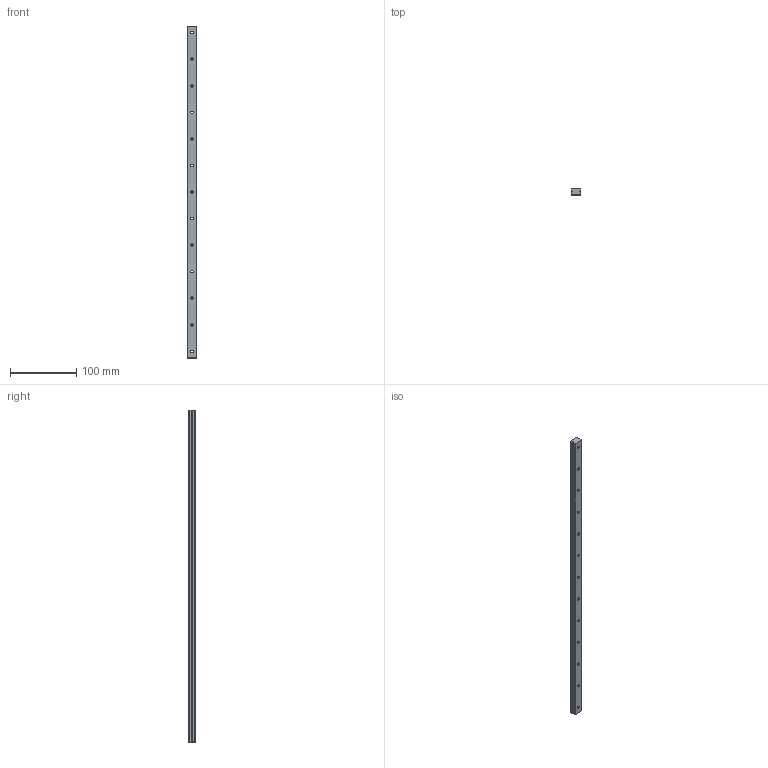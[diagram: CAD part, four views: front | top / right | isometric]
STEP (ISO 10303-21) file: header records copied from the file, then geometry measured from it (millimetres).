
FILE_DESCRIPTION(/* description */ (''),/* implementation_level */ '2;1');
FILE_NAME(/* name */ 'C:\Users\daviddillkoetter\ownCloud\Kamp und Kötter\Artikel\Miniaturfuehrungen_KPM\Step\KPMR-15C-500.stp',/* time_stamp */ '2020-12-07T12:27:32+01:00',/* author */ ('daviddillkoetter'),/* organization */ (''),/* preprocessor_version */ 'ST-DEVELOPER v18.1',/* originating_system */ 'Autodesk Inventor 2021',/* authorisation */ '');
FILE_SCHEMA (('AUTOMOTIVE_DESIGN { 1 0 10303 214 3 1 1 }'));
Length unit declared in the file: millimetre
Products named in the file (1): KPMR
Bounding box: 15 x 10 x 500 mm (x, y, z)
Volume: 71123 mm3; surface area: 28328.4 mm2
Topology: 1 solids, 1 shells, 139 faces, 311 edges, 187 vertices
Faces by surface type: plane 63, cone 42, cylinder 34
Full cylindrical faces by diameter (mm): 3.5 x13, 6 x13
Entity records: 3929 total; most frequent: DIRECTION 698, CARTESIAN_POINT 686, ORIENTED_EDGE 622, EDGE_CURVE 311, AXIS2_PLACEMENT_3D 263, VERTEX_POINT 187, EDGE_LOOP 178, LINE 172
